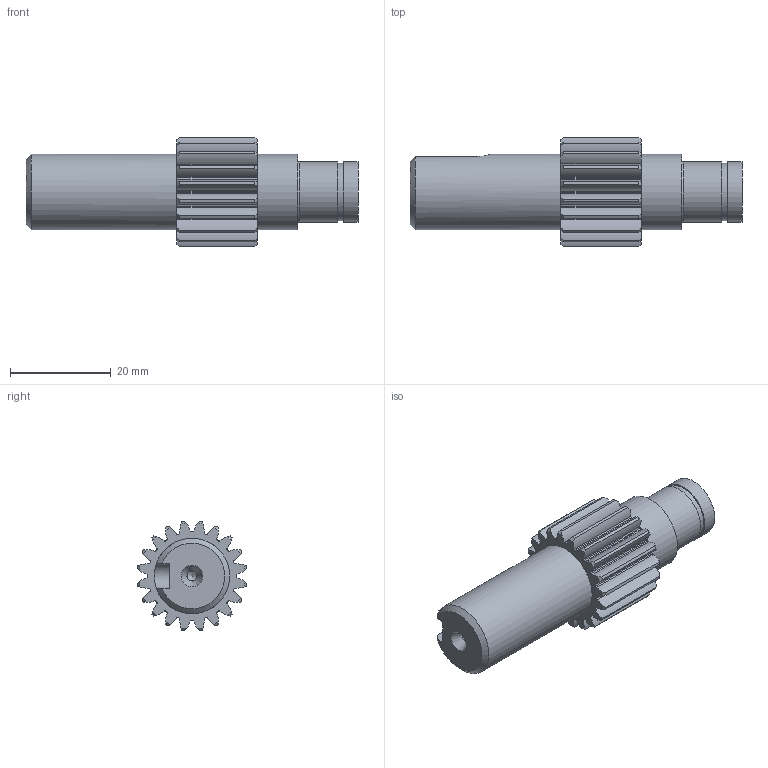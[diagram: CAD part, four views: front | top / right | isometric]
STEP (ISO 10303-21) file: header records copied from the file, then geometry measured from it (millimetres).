
FILE_DESCRIPTION(/* description */ (''),/* implementation_level */ '2;1');
FILE_NAME(/* name */ '',/* time_stamp */ '2026-03-04T10:08:33+09:00',/* author */ ('jhkim'),/* organization */ (''),/* preprocessor_version */ 'ST-DEVELOPER v20.1',/* originating_system */ 'Autodesk Inventor 2026',/* authorisation */ '');
FILE_SCHEMA (('AUTOMOTIVE_DESIGN { 1 0 10303 214 3 1 1 }'));
Length unit declared in the file: millimetre
Products named in the file (1): 기어 축
Bounding box: 66 x 21.81 x 21.81 mm (x, y, z)
Volume: 12734.9 mm3; surface area: 4890.6 mm2
Topology: 1 solids, 1 shells, 184 faces, 528 edges, 351 vertices
Faces by surface type: cylinder 128, cone 45, plane 10, torus 1
Full cylindrical faces by diameter (mm): 2 x2, 11.5 x1, 12 x2, 15 x2
Entity records: 6315 total; most frequent: CARTESIAN_POINT 1324, DIRECTION 1114, ORIENTED_EDGE 1052, EDGE_CURVE 526, AXIS2_PLACEMENT_3D 487, VERTEX_POINT 351, CIRCLE 302, EDGE_LOOP 191
